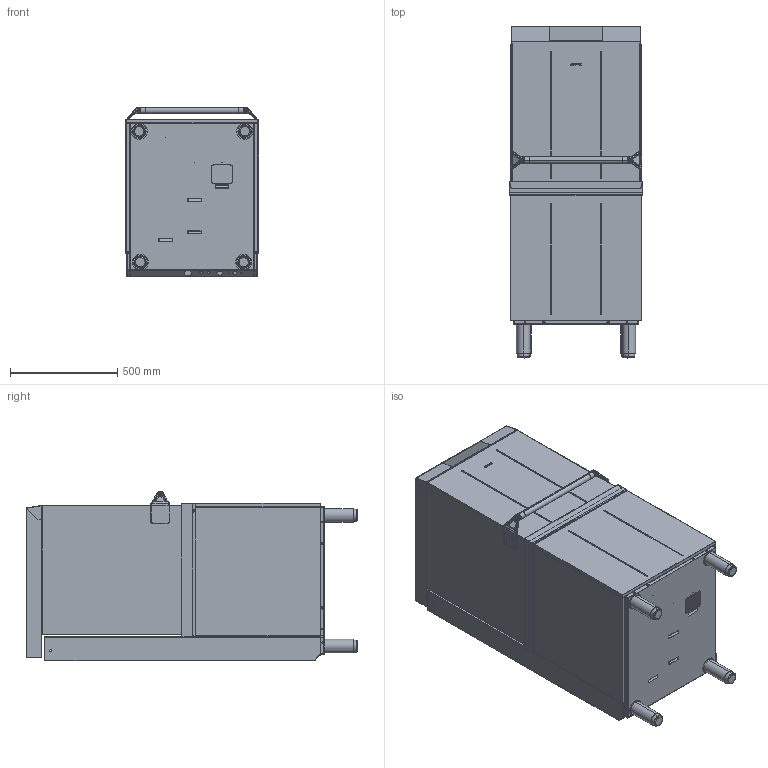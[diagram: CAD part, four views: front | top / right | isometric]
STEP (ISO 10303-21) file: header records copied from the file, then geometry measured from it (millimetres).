
FILE_DESCRIPTION (( 'STEP AP203' ), '1' );
FILE_NAME ('HTY503D60.STEP', '2017-06-12T13:57:05', ( '' ), ( '' ), 'SwSTEP 2.0', 'SolidWorks 2016', '' );
FILE_SCHEMA (( 'CONFIG_CONTROL_DESIGN' ));
Length unit declared in the file: millimetre
Products named in the file (12): Piano-Top-Capote-500x500_1; Specchiatura340400432_PANNELLO DX PRF CAPOTE RISTRETTA_1; 34510322500-Basamento prf capote ristretta_1; 340400434_PANNELLO ANTERIORE PRF CAPOTE RISTRETTA_1; 22200174000-Piedino_1; 34110013100-Retro; 34510326100-CORNICE_1; Maniglia prf capote ristretta_1; Capote-Monoparete-RIGHE-III (modificata); Spalla-Maniglia-AL-Interasse-Stretto_1; 340400432_PANNELLO DX PRF CAPOTE RISTRETTA; HTY503D60
Assembly tree (15 placements, depth 2):
  HTY503D60
    Piano-Top-Capote-500x500_1
    Specchiatura340400432_PANNELLO DX PRF CAPOTE RISTRETTA_1
    34510322500-Basamento prf capote ristretta_1
    340400434_PANNELLO ANTERIORE PRF CAPOTE RISTRETTA_1
    22200174000-Piedino_1  x4
    34110013100-Retro
    34510326100-CORNICE_1
    Maniglia prf capote ristretta_1
    Capote-Monoparete-RIGHE-III (modificata)
    Spalla-Maniglia-AL-Interasse-Stretto_1  x2
    340400432_PANNELLO DX PRF CAPOTE RISTRETTA
Bounding box: 620 x 1546.5 x 790.49 mm (x, y, z)
Volume: 6726995.4 mm3; surface area: 10816609 mm2
Topology: 15 solids, 19 shells, 2889 faces, 7163 edges, 4394 vertices
Faces by surface type: plane 1173, cylinder 983, bspline 677, cone 56
Entity records: 83869 total; most frequent: CARTESIAN_POINT 30033, ORIENTED_EDGE 11238, DIRECTION 10537, EDGE_CURVE 5619, AXIS2_PLACEMENT_3D 3616, VERTEX_POINT 3506, VECTOR 3305, LINE 3305
